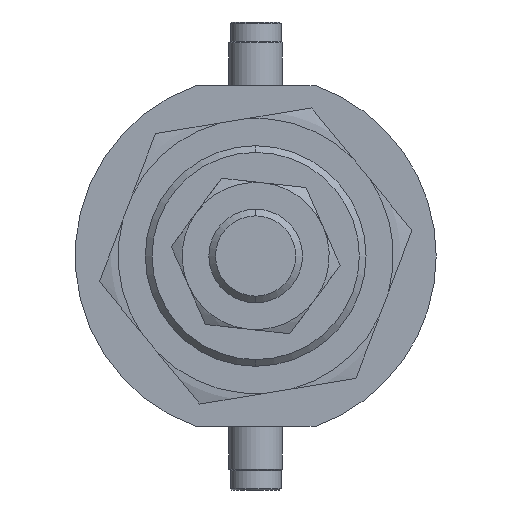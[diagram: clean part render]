
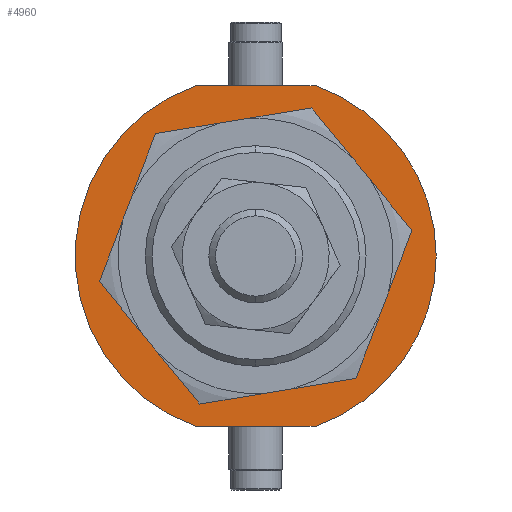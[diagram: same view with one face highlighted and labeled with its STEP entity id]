
A CAD part, left-side view. The second image highlights one B-rep face of the part: STEP entity #4960.
In plain terms, the highlighted planar face has unit normal (-1, 0, 0) as drawn and (0, 1, 0) by its records, which use the part's own axes.
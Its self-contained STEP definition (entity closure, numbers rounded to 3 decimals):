
#98 = VERTEX_POINT ( 'NONE', #2404 ) ;
#113 = DIRECTION ( 'NONE',  ( 0., 0., -1. ) ) ;
#163 = FACE_BOUND ( 'NONE', #772, .T. ) ;
#342 = CARTESIAN_POINT ( 'NONE',  ( 0., 4.5, 0. ) ) ;
#436 = PLANE ( 'NONE',  #4408 ) ;
#579 = DIRECTION ( 'NONE',  ( 0., 0., 1. ) ) ;
#708 = DIRECTION ( 'NONE',  ( 0., 0., 1. ) ) ;
#772 = EDGE_LOOP ( 'NONE', ( #3381, #1321 ) ) ;
#1021 = CARTESIAN_POINT ( 'NONE',  ( -25.5, 4.5, -8.874 ) ) ;
#1104 = DIRECTION ( 'NONE',  ( 0., 0., 1. ) ) ;
#1145 = VERTEX_POINT ( 'NONE', #1227 ) ;
#1210 = DIRECTION ( 'NONE',  ( 0., 0., 1. ) ) ;
#1227 = CARTESIAN_POINT ( 'NONE',  ( -25.5, 4.5, -8.874 ) ) ;
#1321 = ORIENTED_EDGE ( 'NONE', *, *, #2943, .F. ) ;
#1352 = VECTOR ( 'NONE', #579, 1000. ) ;
#1388 = ORIENTED_EDGE ( 'NONE', *, *, #4887, .T. ) ;
#1390 = CARTESIAN_POINT ( 'NONE',  ( 0., 4.5, 0. ) ) ;
#1394 = ORIENTED_EDGE ( 'NONE', *, *, #3284, .T. ) ;
#1447 = DIRECTION ( 'NONE',  ( 0., 0., 1. ) ) ;
#1718 = DIRECTION ( 'NONE',  ( 0., 1., 0. ) ) ;
#1741 = DIRECTION ( 'NONE',  ( 0., 0., 1. ) ) ;
#1946 = VERTEX_POINT ( 'NONE', #5423 ) ;
#2021 = CARTESIAN_POINT ( 'NONE',  ( 0., 4.5, 0. ) ) ;
#2351 = DIRECTION ( 'NONE',  ( 0., 0., 1. ) ) ;
#2354 = CARTESIAN_POINT ( 'NONE',  ( 0., 4.5, 0. ) ) ;
#2404 = CARTESIAN_POINT ( 'NONE',  ( 0., 4.5, -16.5 ) ) ;
#2429 = VERTEX_POINT ( 'NONE', #5240 ) ;
#2493 = CIRCLE ( 'NONE', #2996, 27. ) ;
#2655 = EDGE_CURVE ( 'NONE', #4152, #1145, #2753, .T. ) ;
#2736 = EDGE_CURVE ( 'NONE', #4205, #98, #4608, .T. ) ;
#2753 = CIRCLE ( 'NONE', #3727, 27. ) ;
#2905 = ORIENTED_EDGE ( 'NONE', *, *, #2655, .T. ) ;
#2916 = VECTOR ( 'NONE', #113, 1000. ) ;
#2943 = EDGE_CURVE ( 'NONE', #98, #4205, #3379, .T. ) ;
#2982 = CARTESIAN_POINT ( 'NONE',  ( 0., 4.5, 0. ) ) ;
#2991 = LINE ( 'NONE', #3782, #2916 ) ;
#2996 = AXIS2_PLACEMENT_3D ( 'NONE', #2982, #5218, #1104 ) ;
#3045 = CARTESIAN_POINT ( 'NONE',  ( 0., 4.5, 27. ) ) ;
#3125 = FACE_OUTER_BOUND ( 'NONE', #5479, .T. ) ;
#3156 = DIRECTION ( 'NONE',  ( 0., 1., 0. ) ) ;
#3217 = DIRECTION ( 'NONE',  ( 0., 1., 0. ) ) ;
#3284 = EDGE_CURVE ( 'NONE', #2429, #4152, #2991, .T. ) ;
#3379 = CIRCLE ( 'NONE', #4772, 16.5 ) ;
#3381 = ORIENTED_EDGE ( 'NONE', *, *, #2736, .F. ) ;
#3433 = LINE ( 'NONE', #1021, #1352 ) ;
#3547 = AXIS2_PLACEMENT_3D ( 'NONE', #2354, #1718, #1447 ) ;
#3559 = CARTESIAN_POINT ( 'NONE',  ( 0., 4.5, 16.5 ) ) ;
#3610 = ORIENTED_EDGE ( 'NONE', *, *, #5251, .T. ) ;
#3727 = AXIS2_PLACEMENT_3D ( 'NONE', #1390, #3156, #1210 ) ;
#3782 = CARTESIAN_POINT ( 'NONE',  ( 25.5, 4.5, -8.874 ) ) ;
#4152 = VERTEX_POINT ( 'NONE', #4543 ) ;
#4153 = EDGE_CURVE ( 'NONE', #5030, #2429, #4716, .T. ) ;
#4205 = VERTEX_POINT ( 'NONE', #3559 ) ;
#4345 = DIRECTION ( 'NONE',  ( 0., 1., 0. ) ) ;
#4408 = AXIS2_PLACEMENT_3D ( 'NONE', #342, #3217, #2351 ) ;
#4543 = CARTESIAN_POINT ( 'NONE',  ( 25.5, 4.5, -8.874 ) ) ;
#4608 = CIRCLE ( 'NONE', #5026, 16.5 ) ;
#4716 = CIRCLE ( 'NONE', #3547, 27. ) ;
#4772 = AXIS2_PLACEMENT_3D ( 'NONE', #2021, #5374, #1741 ) ;
#4887 = EDGE_CURVE ( 'NONE', #1145, #1946, #3433, .T. ) ;
#4942 = ORIENTED_EDGE ( 'NONE', *, *, #4153, .T. ) ;
#4960 = ADVANCED_FACE ( 'NONE', ( #163, #3125 ), #436, .T. ) ;
#5026 = AXIS2_PLACEMENT_3D ( 'NONE', #5176, #4345, #708 ) ;
#5030 = VERTEX_POINT ( 'NONE', #3045 ) ;
#5176 = CARTESIAN_POINT ( 'NONE',  ( 0., 4.5, 0. ) ) ;
#5218 = DIRECTION ( 'NONE',  ( 0., 1., 0. ) ) ;
#5240 = CARTESIAN_POINT ( 'NONE',  ( 25.5, 4.5, 8.874 ) ) ;
#5251 = EDGE_CURVE ( 'NONE', #1946, #5030, #2493, .T. ) ;
#5374 = DIRECTION ( 'NONE',  ( 0., 1., 0. ) ) ;
#5423 = CARTESIAN_POINT ( 'NONE',  ( -25.5, 4.5, 8.874 ) ) ;
#5479 = EDGE_LOOP ( 'NONE', ( #2905, #1388, #3610, #4942, #1394 ) ) ;
